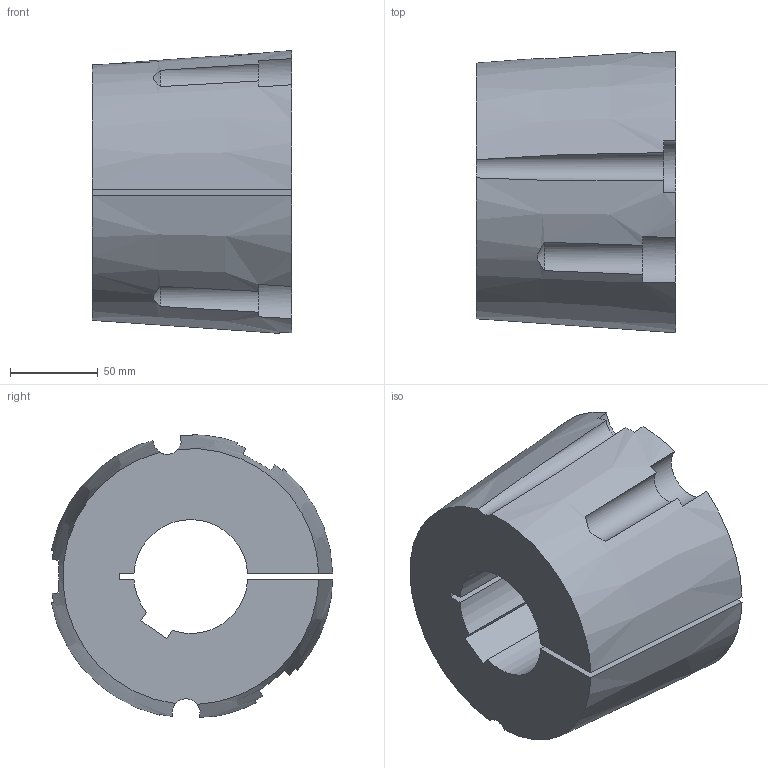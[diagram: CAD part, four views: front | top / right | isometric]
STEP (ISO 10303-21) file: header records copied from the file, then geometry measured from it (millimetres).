
FILE_DESCRIPTION( ( 'STEP AP203' ), '1' );
FILE_NAME( 'D:/export/antriebselemente/spannbuchsen_und_spannsaetze/taper-spannbuchsen_1008_bis_5050/taper-spannbuchsen_62251565Isometric_251.stp', '2018-12-11T11:11:35', ( '' ), ( '' ), ' ', 'PARTsolutions', ' ' );
FILE_SCHEMA( ( 'CONFIG_CONTROL_DESIGN' ) );
Length unit declared in the file: millimetre
Products named in the file (1): _taper-spannbuchsen_62251565
Bounding box: 114 x 160.6 x 161.35 mm (x, y, z)
Volume: 1647235.6 mm3; surface area: 124716.3 mm2
Topology: 1 solids, 1 shells, 34 faces, 96 edges, 64 vertices
Faces by surface type: plane 15, cylinder 13, cone 6
Entity records: 1314 total; most frequent: CARTESIAN_POINT 390, ORIENTED_EDGE 192, DIRECTION 186, EDGE_CURVE 96, AXIS2_PLACEMENT_3D 80, VERTEX_POINT 64, CIRCLE 45, ADVANCED_FACE 34
